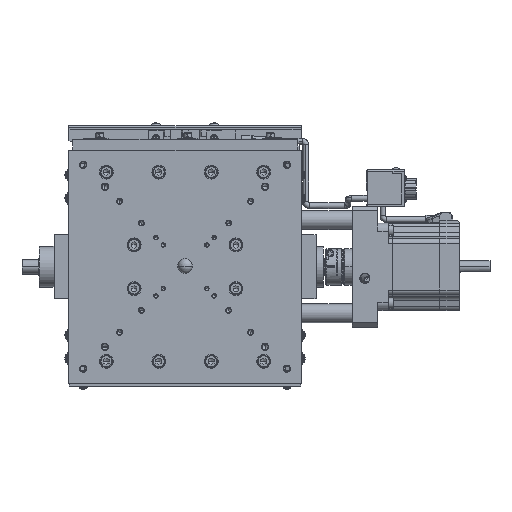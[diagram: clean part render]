
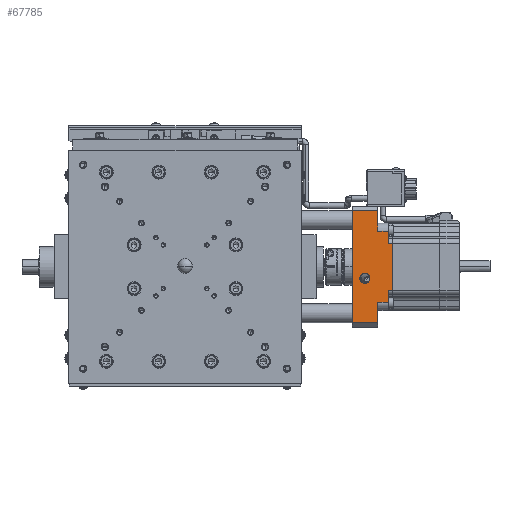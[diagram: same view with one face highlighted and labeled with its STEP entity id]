
A CAD part, top view. The second image highlights one B-rep face of the part: STEP entity #67785.
In plain terms, the highlighted planar face has unit normal (0, 0, 1).
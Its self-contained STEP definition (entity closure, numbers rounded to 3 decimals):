
#744 = LINE ( 'NONE', #16031, #22776 ) ;
#1716 = FACE_BOUND ( 'NONE', #76700, .T. ) ;
#2932 = LINE ( 'NONE', #34197, #33232 ) ;
#3114 = LINE ( 'NONE', #35524, #72177 ) ;
#3329 = CARTESIAN_POINT ( 'NONE',  ( -641.357, -293.081, -269.14 ) ) ;
#5200 = VERTEX_POINT ( 'NONE', #52173 ) ;
#5312 = DIRECTION ( 'NONE',  ( 0., 0., -1. ) ) ;
#6173 = EDGE_CURVE ( 'NONE', #33075, #68305, #39281, .T. ) ;
#7975 = ORIENTED_EDGE ( 'NONE', *, *, #80663, .F. ) ;
#8586 = CARTESIAN_POINT ( 'NONE',  ( -634.357, -279.081, -269.14 ) ) ;
#9154 = ORIENTED_EDGE ( 'NONE', *, *, #83581, .T. ) ;
#9567 = CARTESIAN_POINT ( 'NONE',  ( -650.107, -216.081, -269.14 ) ) ;
#12172 = ORIENTED_EDGE ( 'NONE', *, *, #6173, .F. ) ;
#12353 = ORIENTED_EDGE ( 'NONE', *, *, #31897, .F. ) ;
#12953 = DIRECTION ( 'NONE',  ( 0., 0., 1. ) ) ;
#13145 = DIRECTION ( 'NONE',  ( 0., -1., 0. ) ) ;
#15817 = ORIENTED_EDGE ( 'NONE', *, *, #47954, .T. ) ;
#16031 = CARTESIAN_POINT ( 'NONE',  ( -650.107, -293.081, -269.14 ) ) ;
#16440 = VECTOR ( 'NONE', #67989, 1000. ) ;
#16466 = ORIENTED_EDGE ( 'NONE', *, *, #30256, .T. ) ;
#18153 = VECTOR ( 'NONE', #58237, 1000. ) ;
#18743 = EDGE_LOOP ( 'NONE', ( #12353, #15817, #63422, #58805, #12172, #23305, #16466, #28864, #32666, #33518, #72369, #7975 ) ) ;
#18952 = VECTOR ( 'NONE', #49766, 1000. ) ;
#19448 = VECTOR ( 'NONE', #85467, 1000. ) ;
#19643 = EDGE_CURVE ( 'NONE', #77715, #69730, #48850, .T. ) ;
#19812 = DIRECTION ( 'NONE',  ( -1., 0., 0. ) ) ;
#22776 = VECTOR ( 'NONE', #72162, 1000. ) ;
#23209 = CIRCLE ( 'NONE', #52445, 3.5 ) ;
#23305 = ORIENTED_EDGE ( 'NONE', *, *, #79459, .T. ) ;
#24116 = VERTEX_POINT ( 'NONE', #82315 ) ;
#24355 = CARTESIAN_POINT ( 'NONE',  ( -641.357, -216.081, -269.14 ) ) ;
#27436 = CARTESIAN_POINT ( 'NONE',  ( -650.357, -262.581, -269.14 ) ) ;
#27466 = CARTESIAN_POINT ( 'NONE',  ( -634.357, -238.592, -269.14 ) ) ;
#27752 = CARTESIAN_POINT ( 'NONE',  ( -650.357, -259.081, -269.14 ) ) ;
#28864 = ORIENTED_EDGE ( 'NONE', *, *, #83907, .T. ) ;
#28979 = CARTESIAN_POINT ( 'NONE',  ( -631.357, -270.57, -269.14 ) ) ;
#30256 = EDGE_CURVE ( 'NONE', #35603, #5200, #3114, .T. ) ;
#31237 = VERTEX_POINT ( 'NONE', #27752 ) ;
#31897 = EDGE_CURVE ( 'NONE', #80312, #65383, #51441, .T. ) ;
#32666 = ORIENTED_EDGE ( 'NONE', *, *, #74025, .F. ) ;
#33075 = VERTEX_POINT ( 'NONE', #24355 ) ;
#33088 = FACE_OUTER_BOUND ( 'NONE', #18743, .T. ) ;
#33232 = VECTOR ( 'NONE', #13145, 1000. ) ;
#33518 = ORIENTED_EDGE ( 'NONE', *, *, #19643, .F. ) ;
#33688 = CARTESIAN_POINT ( 'NONE',  ( -598.849, -217.073, -269.14 ) ) ;
#34197 = CARTESIAN_POINT ( 'NONE',  ( -634.357, -230.081, -269.14 ) ) ;
#35524 = CARTESIAN_POINT ( 'NONE',  ( -658.857, -213.081, -269.14 ) ) ;
#35603 = VERTEX_POINT ( 'NONE', #73107 ) ;
#36693 = AXIS2_PLACEMENT_3D ( 'NONE', #33688, #12953, #46586 ) ;
#37260 = CARTESIAN_POINT ( 'NONE',  ( -650.357, -266.081, -269.14 ) ) ;
#38223 = LINE ( 'NONE', #9567, #45547 ) ;
#39269 = DIRECTION ( 'NONE',  ( 0., -1., 0. ) ) ;
#39281 = LINE ( 'NONE', #45725, #64418 ) ;
#39423 = LINE ( 'NONE', #41444, #16440 ) ;
#40555 = VECTOR ( 'NONE', #19812, 1000. ) ;
#41056 = LINE ( 'NONE', #48351, #66075 ) ;
#41409 = EDGE_CURVE ( 'NONE', #31237, #67552, #23209, .T. ) ;
#41444 = CARTESIAN_POINT ( 'NONE',  ( -631.357, -238.592, -269.14 ) ) ;
#41635 = CIRCLE ( 'NONE', #59317, 3.5 ) ;
#43882 = ORIENTED_EDGE ( 'NONE', *, *, #41409, .T. ) ;
#45424 = CARTESIAN_POINT ( 'NONE',  ( -650.357, -262.581, -269.14 ) ) ;
#45547 = VECTOR ( 'NONE', #55518, 1000. ) ;
#45725 = CARTESIAN_POINT ( 'NONE',  ( -641.357, -213.081, -269.14 ) ) ;
#46586 = DIRECTION ( 'NONE',  ( -1., 0., 0. ) ) ;
#46774 = DIRECTION ( 'NONE',  ( 0., 0., -1. ) ) ;
#47213 = CARTESIAN_POINT ( 'NONE',  ( -631.357, -238.592, -269.14 ) ) ;
#47954 = EDGE_CURVE ( 'NONE', #80312, #84623, #39423, .T. ) ;
#48351 = CARTESIAN_POINT ( 'NONE',  ( -634.357, -270.57, -269.14 ) ) ;
#48850 = LINE ( 'NONE', #8586, #79201 ) ;
#49766 = DIRECTION ( 'NONE',  ( 0., -1., 0. ) ) ;
#50187 = CARTESIAN_POINT ( 'NONE',  ( -634.357, -230.081, -269.14 ) ) ;
#50571 = LINE ( 'NONE', #64930, #18153 ) ;
#51441 = LINE ( 'NONE', #69605, #18952 ) ;
#52129 = DIRECTION ( 'NONE',  ( 0., 1., 0. ) ) ;
#52173 = CARTESIAN_POINT ( 'NONE',  ( -658.857, -293.081, -269.14 ) ) ;
#52366 = VERTEX_POINT ( 'NONE', #3329 ) ;
#52445 = AXIS2_PLACEMENT_3D ( 'NONE', #45424, #5312, #52129 ) ;
#53140 = CARTESIAN_POINT ( 'NONE',  ( -634.357, -230.081, -269.14 ) ) ;
#53191 = DIRECTION ( 'NONE',  ( 0., 1., 0. ) ) ;
#55518 = DIRECTION ( 'NONE',  ( -1., 0., 0. ) ) ;
#58237 = DIRECTION ( 'NONE',  ( -1., 0., 0. ) ) ;
#58805 = ORIENTED_EDGE ( 'NONE', *, *, #73015, .T. ) ;
#59317 = AXIS2_PLACEMENT_3D ( 'NONE', #27436, #46774, #53191 ) ;
#60321 = VERTEX_POINT ( 'NONE', #50187 ) ;
#60366 = CARTESIAN_POINT ( 'NONE',  ( -641.357, -279.081, -269.14 ) ) ;
#61431 = LINE ( 'NONE', #53140, #40555 ) ;
#63422 = ORIENTED_EDGE ( 'NONE', *, *, #83672, .F. ) ;
#64418 = VECTOR ( 'NONE', #39269, 1000. ) ;
#64930 = CARTESIAN_POINT ( 'NONE',  ( -631.357, -270.57, -269.14 ) ) ;
#65383 = VERTEX_POINT ( 'NONE', #28979 ) ;
#66075 = VECTOR ( 'NONE', #74678, 1000. ) ;
#67552 = VERTEX_POINT ( 'NONE', #37260 ) ;
#67785 = ADVANCED_FACE ( 'NONE', ( #33088, #1716 ), #74026, .T. ) ;
#67989 = DIRECTION ( 'NONE',  ( -1., 0., 0. ) ) ;
#68305 = VERTEX_POINT ( 'NONE', #69133 ) ;
#69133 = CARTESIAN_POINT ( 'NONE',  ( -641.357, -230.081, -269.14 ) ) ;
#69605 = CARTESIAN_POINT ( 'NONE',  ( -631.357, -238.592, -269.14 ) ) ;
#69730 = VERTEX_POINT ( 'NONE', #60366 ) ;
#72000 = CARTESIAN_POINT ( 'NONE',  ( -641.357, -213.081, -269.14 ) ) ;
#72162 = DIRECTION ( 'NONE',  ( 1., 0., 0. ) ) ;
#72177 = VECTOR ( 'NONE', #75005, 1000. ) ;
#72307 = CARTESIAN_POINT ( 'NONE',  ( -634.357, -279.081, -269.14 ) ) ;
#72369 = ORIENTED_EDGE ( 'NONE', *, *, #76774, .F. ) ;
#73015 = EDGE_CURVE ( 'NONE', #60321, #68305, #61431, .T. ) ;
#73107 = CARTESIAN_POINT ( 'NONE',  ( -658.857, -216.081, -269.14 ) ) ;
#74025 = EDGE_CURVE ( 'NONE', #69730, #52366, #77024, .T. ) ;
#74026 = PLANE ( 'NONE',  #36693 ) ;
#74678 = DIRECTION ( 'NONE',  ( 0., -1., 0. ) ) ;
#75005 = DIRECTION ( 'NONE',  ( 0., -1., 0. ) ) ;
#76700 = EDGE_LOOP ( 'NONE', ( #9154, #43882 ) ) ;
#76774 = EDGE_CURVE ( 'NONE', #24116, #77715, #41056, .T. ) ;
#77024 = LINE ( 'NONE', #72000, #19448 ) ;
#77715 = VERTEX_POINT ( 'NONE', #72307 ) ;
#79201 = VECTOR ( 'NONE', #81997, 1000. ) ;
#79459 = EDGE_CURVE ( 'NONE', #33075, #35603, #38223, .T. ) ;
#80312 = VERTEX_POINT ( 'NONE', #47213 ) ;
#80663 = EDGE_CURVE ( 'NONE', #65383, #24116, #50571, .T. ) ;
#81997 = DIRECTION ( 'NONE',  ( -1., 0., 0. ) ) ;
#82315 = CARTESIAN_POINT ( 'NONE',  ( -634.357, -270.57, -269.14 ) ) ;
#83581 = EDGE_CURVE ( 'NONE', #67552, #31237, #41635, .T. ) ;
#83672 = EDGE_CURVE ( 'NONE', #60321, #84623, #2932, .T. ) ;
#83907 = EDGE_CURVE ( 'NONE', #5200, #52366, #744, .T. ) ;
#84623 = VERTEX_POINT ( 'NONE', #27466 ) ;
#85467 = DIRECTION ( 'NONE',  ( 0., -1., 0. ) ) ;
